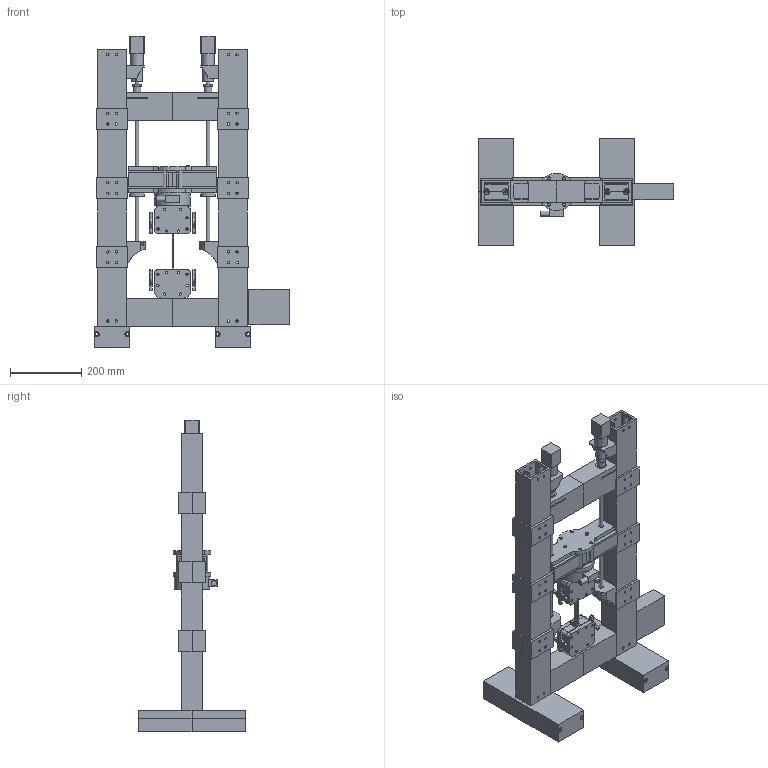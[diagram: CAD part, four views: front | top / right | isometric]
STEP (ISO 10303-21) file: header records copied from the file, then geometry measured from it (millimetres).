
FILE_DESCRIPTION(('FreeCAD Model'),'2;1');
FILE_NAME('Open CASCADE Shape Model','2026-10-24T23:46:19',('Author'),( ''),'Open CASCADE STEP processor 7.8','FreeCAD','Unknown');
FILE_SCHEMA(('AUTOMOTIVE_DESIGN { 1 0 10303 214 1 1 1 1 }'));
Length unit declared in the file: millimetre
Products named in the file (87): OpenPull_030_printed_frame; Original_Part__Feature; Original_Part__Feature001; Original_Part__Feature002; Original_Part__Feature003; Original_Part__Feature004; Original_Part__Feature005; Original_Part__Feature006; Original_Part__Feature007; Original_Part__Feature008; Original_Part__Feature009; Original_Part__Feature010; Original_Part__Feature011; Original_Part__Feature012; Original_Part__Feature013; Original_Part__Feature014; Original_Part__Feature015; Original_Part__Feature016; Original_Part__Feature017; Original_Part__Feature018; Original_Part__Feature019; Original_Part__Feature020; Original_Part__Feature021; Original_Part__Feature022; Original_Part__Feature023; Original_Part__Feature024; Original_Part__Feature025; Original_Part__Feature026; Original_Part__Feature027; Original_Part__Feature028; Original_Part__Feature029; Original_Part__Feature030; Original_Part__Feature031; Original_Part__Feature032; Original_Part__Feature033; Original_Part__Feature034; Original_Part__Feature035; Original_Part__Feature036; Original_Part__Feature037; Original_Part__Feature038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
Assembly tree (86 placements, depth 2):
  OpenPull_030_printed_frame
    Original_Part__Feature
    Original_Part__Feature001
    Original_Part__Feature002
    Original_Part__Feature003
    Original_Part__Feature004
    Original_Part__Feature005
    Original_Part__Feature006
    Original_Part__Feature007
    Original_Part__Feature008
    Original_Part__Feature009
    Original_Part__Feature010
    Original_Part__Feature011
    Original_Part__Feature012
    Original_Part__Feature013
    Original_Part__Feature014
    Original_Part__Feature015
    Original_Part__Feature016
    Original_Part__Feature017
    Original_Part__Feature018
    Original_Part__Feature019
    Original_Part__Feature020
    Original_Part__Feature021
    Original_Part__Feature022
    Original_Part__Feature023
    Original_Part__Feature024
    Original_Part__Feature025
    Original_Part__Feature026
    Original_Part__Feature027
    Original_Part__Feature028
    Original_Part__Feature029
    Original_Part__Feature030
    Original_Part__Feature031
    Original_Part__Feature032
    Original_Part__Feature033
    Original_Part__Feature034
    Original_Part__Feature035
    Original_Part__Feature036
    Original_Part__Feature037
    Original_Part__Feature038
    Original_Part__Feature039
    Original_Part__Feature040
    Original_Part__Feature041
    Original_Part__Feature042
    Original_Part__Feature043
    Original_Part__Feature045
    Original_Part__Feature046
    Original_Part__Feature047
    Original_Part__Feature048
    Original_Part__Feature049
    BearingReactionLeft
    BearingReactionRight
    FootLeftFront
    FootLeftBack
    FootRightFront
    FootRightBack
    CrossheadPadLowerLeft
    CrossheadPadLowerRight
    CrossheadPadUpperLeft
    CrossheadPadUpperRight
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Bounding box: 550 x 300 x 877 mm (x, y, z)
Volume: 8104041.3 mm3; surface area: 2838379.3 mm2
Topology: 86 solids, 90 shells, 1855 faces, 4805 edges, 3171 vertices
Faces by surface type: plane 1031, cylinder 654, bspline 136, cone 30, torus 4
Full cylindrical faces by diameter (mm): 3 x8, 3.5 x8, 4 x28, 5.3 x2, 6 x12, 6.5 x36, 6.6 x112, 8 x19, 8.6 x8, 9 x58, 9.3 x2, 10 x12, 12 x16, 14.95 x2, 15 x4, 16 x1, 17 x2, 20 x1, 22 x12, 22.3 x2, 22.5 x2, 25 x6, 26 x2, 30 x4, 35.2 x4, 35.8 x2, 36 x1, 42 x2, 55 x1, 100 x1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
Entity records: 64992 total; most frequent: CARTESIAN_POINT 16440, DIRECTION 9710, ORIENTED_EDGE 9610, EDGE_CURVE 4805, AXIS2_PLACEMENT_3D 3405, VERTEX_POINT 3171, LINE 2900, VECTOR 2900
